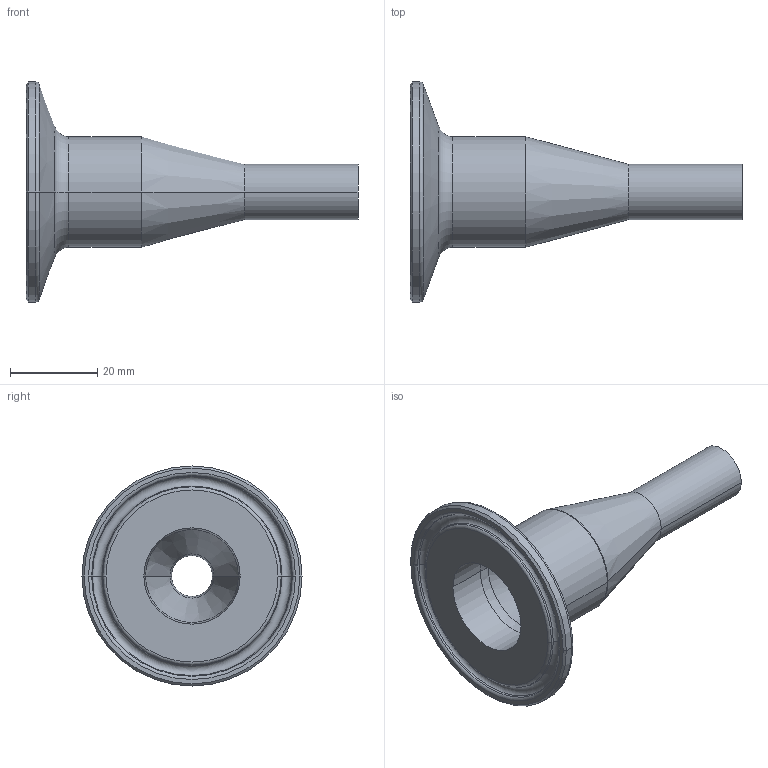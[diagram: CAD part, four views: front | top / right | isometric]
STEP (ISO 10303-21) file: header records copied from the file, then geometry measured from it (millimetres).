
FILE_DESCRIPTION (( 'STEP AP214' ), '1' );
FILE_NAME ('TE31SCW6L1.0x.5-...STEP', '2016-05-29T10:47:39', ( 'eran' ), ( '' ), 'SwSTEP 2.0', 'SolidWorks 2016', '' );
FILE_SCHEMA (( 'AUTOMOTIVE_DESIGN' ));
Length unit declared in the file: millimetre
Products named in the file (1): TE31SCW6L1.0x.5-..
Bounding box: 76.2 x 50.5 x 50.5 mm (x, y, z)
Volume: 19815 mm3; surface area: 10889.3 mm2
Topology: 1 solids, 1 shells, 41 faces, 82 edges, 44 vertices
Faces by surface type: torus 16, cone 12, cylinder 10, plane 3
Entity records: 1098 total; most frequent: DIRECTION 226, CARTESIAN_POINT 168, ORIENTED_EDGE 164, AXIS2_PLACEMENT_3D 102, EDGE_CURVE 82, CIRCLE 60, EDGE_LOOP 44, VERTEX_POINT 44
